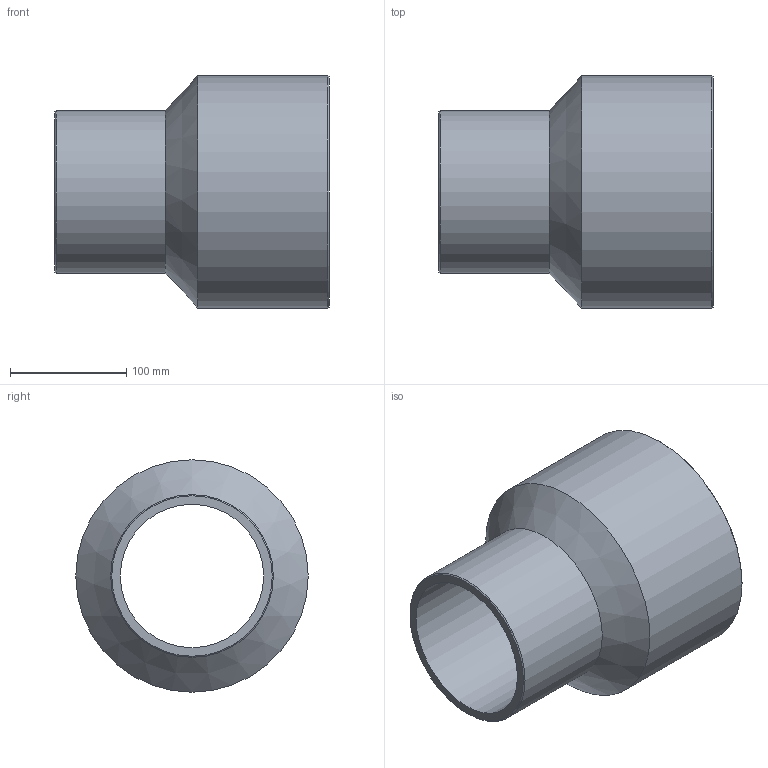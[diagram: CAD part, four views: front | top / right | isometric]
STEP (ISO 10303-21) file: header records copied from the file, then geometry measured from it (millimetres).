
FILE_DESCRIPTION(/* description */ ('Unknown'),/* implementation_level */ '2;1');
FILE_NAME(/* name */ 'RP200140B',/* time_stamp */ '2021-09-17T11:37:51+02:00',/* author */ ('Unknown'),/* organization */ ('Unknown'),/* preprocessor_version */ 'ST-DEVELOPER v16.7',/* originating_system */ 'Solid Edge',/* authorisation */ 'Unknown');
FILE_SCHEMA (('AUTOMOTIVE_DESIGN {1 0 10303 214 3 1 1}'));
Length unit declared in the file: millimetre
Products named in the file (1): RP200140B
Bounding box: 236 x 200 x 200 mm (x, y, z)
Volume: 1401282 mm3; surface area: 259958.1 mm2
Topology: 1 solids, 1 shells, 10 faces, 19 edges, 11 vertices
Faces by surface type: cylinder 4, cone 4, plane 2
Full cylindrical faces by diameter (mm): 123.4 x1, 140 x1, 176.2 x1, 200 x1
Entity records: 238 total; most frequent: DIRECTION 42, CARTESIAN_POINT 31, AXIS2_PLACEMENT_3D 21, ORIENTED_EDGE 20, EDGE_LOOP 20, FACE_BOUND 20, EDGE_CURVE 10, VERTEX_POINT 10
